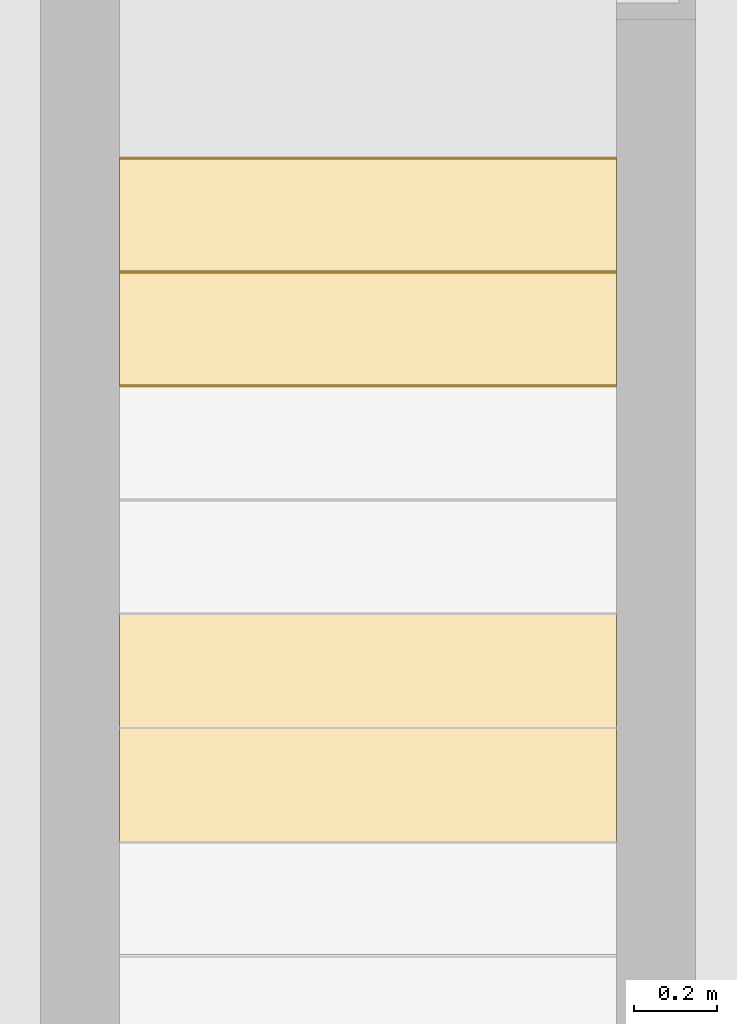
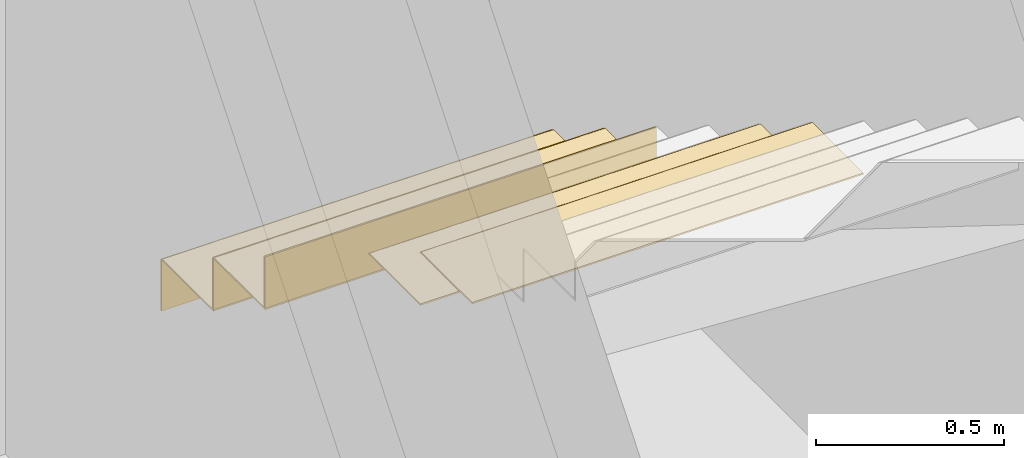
# One storey, part 61 of 62: 7 coverings, 1 element without a shape of its own.
"""IFC2X3 building model written with IfcOpenShell, lengths in millimetres."""

from ifc_helpers import new_model, entity, si_unit, converted_unit, derived_unit, money_unit, direction, frame, origin_with_axes, place, context, subcontext, project, spatial, faceted_brep, material, type_object, element, aggregate, save


model = new_model("IFC2X3")

# Units and contexts
model_context = context("Model", 3, precision=0.01, world=origin_with_axes(), true_north=direction((0.0, 1.0)))
body_context = subcontext(model_context, "Body", "Model", "MODEL_VIEW")
ifc_project = project(units=[si_unit("LENGTHUNIT", "METRE", prefix="MILLI"), si_unit("AREAUNIT", "SQUARE_METRE"), si_unit("VOLUMEUNIT", "CUBIC_METRE"), converted_unit("PLANEANGLEUNIT", "DEGREE", entity("IfcPlaneAngleMeasure", 0.0174532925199), si_unit("PLANEANGLEUNIT", "RADIAN"), dimensions=[0, 0, 0, 0, 0, 0, 0]), si_unit("SOLIDANGLEUNIT", "STERADIAN"), money_unit("EUR"), converted_unit("TIMEUNIT", "Year", entity("IfcTimeMeasure", 31556926.0), si_unit("TIMEUNIT", "SECOND"), dimensions=[0, 0, 1, 0, 0, 0, 0]), si_unit("MASSUNIT", "GRAM", prefix="KILO"), si_unit("THERMODYNAMICTEMPERATUREUNIT", "DEGREE_CELSIUS"), si_unit("LUMINOUSINTENSITYUNIT", "LUMEN"), si_unit("ENERGYUNIT", "JOULE", prefix="MEGA"), derived_unit("THERMALCONDUCTANCEUNIT", [(si_unit("POWERUNIT", "WATT"), 1), (si_unit("LENGTHUNIT", "METRE"), -1), (si_unit("THERMODYNAMICTEMPERATUREUNIT", "KELVIN"), -1)]), derived_unit("SPECIFICHEATCAPACITYUNIT", [(si_unit("ENERGYUNIT", "JOULE"), 1), (si_unit("MASSUNIT", "GRAM", prefix="KILO"), -1), (si_unit("THERMODYNAMICTEMPERATUREUNIT", "KELVIN"), -1)]), derived_unit("MASSDENSITYUNIT", [(si_unit("MASSUNIT", "GRAM", prefix="KILO"), 1), (si_unit("VOLUMEUNIT", "CUBIC_METRE"), -1)])], contexts=[model_context])

# Site, building, storey
site_placement = place(None, origin_with_axes())
site = spatial("IfcSite", under=ifc_project, at=site_placement, Name="KIRDE 14, ELVA", CompositionType="ELEMENT")
building_placement = place(site_placement, origin_with_axes())
building = spatial("IfcBuilding", under=site, at=building_placement, Name="PPA ja Päästeameti ühishoone", CompositionType="ELEMENT")
storey_placement = place(building_placement, origin_with_axes())
storey = spatial("IfcBuildingStorey", under=building, at=storey_placement, Name="Esimene korrus", CompositionType="ELEMENT", Elevation=0.0)

# Stair, coverings
stair_placement = place(storey_placement, frame((7700.00010085, 18999.9988138, 0.0), z_axis=(0.0, 0.0, 1.0), x_axis=(0.845542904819, 0.533907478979, 0.0)))
stair = element("IfcStair", 1, at=stair_placement, inside=storey, Name="TREPP", ShapeType="NOTDEFINED")
ifc_material = material(Name="SV-02_Puit - Põrand")
covering_type = type_object("IfcCoveringType", Name="IfcCovering", PredefinedType="FLOORING")
covering_1_placement = place(stair_placement, frame((507.32574555, -320.344483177, 166.428571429), z_axis=(0.0, 0.0, 1.0), x_axis=(-0.845542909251, 0.533907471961, 0.0)))
covering_1 = element("IfcCovering", 2, at=covering_1_placement, type_object=covering_type, material=ifc_material, Name="TV TÕUS - 001", PredefinedType="FLOORING", context=body_context, shape_type="Brep", body=[
    faceted_brep([(600.0, 0.0, 0.0), (600.0, 5.0, 0.0), (-600.0, 5.0, 0.0), (-600.0, 0.0, 0.0), (600.0, 0.0, -166.428571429), (600.0, 5.0, -166.428571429), (-600.0, 5.0, -166.428571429), (-600.0, 0.0, -166.428571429)], [[[0, 1, 2, 3]], [[0, 4, 5, 1]], [[1, 5, 6, 2]], [[3, 2, 6, 7]], [[4, 0, 3, 7]], [[5, 4, 7, 6]]]),
])
covering_2_placement = place(stair_placement, frame((360.501190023, -552.868784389, 337.857142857), z_axis=(0.0, 0.0, 1.0), x_axis=(-0.845542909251, 0.533907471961, 0.0)))
covering_2 = element("IfcCovering", 3, at=covering_2_placement, type_object=covering_type, material=ifc_material, Name="TV TÕUS - 002", PredefinedType="FLOORING", context=body_context, shape_type="Brep", body=[
    faceted_brep([(600.0, 0.0, 0.0), (600.0, 5.0, 0.0), (-600.0, 5.0, 0.0), (-600.0, 0.0, 0.0), (600.0, 0.0, -166.428571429), (600.0, 5.0, -166.428571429), (-600.0, 5.0, -166.428571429), (-600.0, 0.0, -166.428571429)], [[[0, 1, 2, 3]], [[0, 4, 5, 1]], [[1, 5, 6, 2]], [[3, 2, 6, 7]], [[4, 0, 3, 7]], [[5, 4, 7, 6]]]),
])
covering_3_placement = place(stair_placement, frame((213.676634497, -785.393085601, 509.285714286), z_axis=(0.0, 0.0, 1.0), x_axis=(-0.845542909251, 0.533907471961, 0.0)))
covering_3 = element("IfcCovering", 4, at=covering_3_placement, type_object=covering_type, material=ifc_material, Name="TV TÕUS - 003", PredefinedType="FLOORING", context=body_context, shape_type="Brep", body=[
    faceted_brep([(600.0, 0.0, 0.0), (600.0, 5.0, 0.0), (-600.0, 5.0, 0.0), (-600.0, 0.0, 0.0), (600.0, 0.0, -166.428571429), (600.0, 5.0, -166.428571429), (-600.0, 5.0, -166.428571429), (-600.0, 0.0, -166.428571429)], [[[0, 1, 2, 3]], [[0, 4, 5, 1]], [[1, 5, 6, 2]], [[3, 2, 6, 7]], [[4, 0, 3, 7]], [[5, 4, 7, 6]]]),
])
covering_4_placement = place(stair_placement, frame((507.32574555, -320.344483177, 171.428571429), z_axis=(0.0, 0.0, 1.0), x_axis=(-0.845542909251, 0.533907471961, 0.0)))
covering_4 = element("IfcCovering", 5, at=covering_4_placement, type_object=covering_type, material=ifc_material, Name="TV ASTE - 001", PredefinedType="FLOORING", context=body_context, shape_type="Brep", body=[
    faceted_brep([(-600.0, 280.000001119, 0.0), (600.0, 280.000006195, 0.0), (600.0, 280.000006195, -5.0), (-600.0, 280.000001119, -5.0), (-600.0, 12.5, 0.0), (600.0, 12.5, 0.0), (600.0, 2.92444446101, -4.46515487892), (600.0, 2.54994187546, -5.0), (600.0, 10.3293977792, -0.189903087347), (600.0, 8.22474820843, -0.753842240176), (600.0, 6.25, -1.67468245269), (600.0, 4.46515487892, -2.92444446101), (-600.0, 2.54994187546, -5.0), (-600.0, 2.92444446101, -4.46515487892), (-600.0, 4.46515487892, -2.92444446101), (-600.0, 6.25, -1.67468245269), (-600.0, 8.22474820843, -0.753842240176), (-600.0, 10.3293977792, -0.189903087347)], [[[0, 1, 2, 3]], [[1, 0, 4, 5]], [[6, 7, 2, 1, 5, 8, 9, 10, 11]], [[7, 12, 3, 2]], [[4, 0, 3, 12, 13, 14, 15, 16, 17]], [[8, 5, 4, 17]], [[7, 6, 13, 12]], [[9, 8, 17, 16]], [[10, 9, 16, 15]], [[11, 10, 15, 14]], [[6, 11, 14, 13]]]),
])
covering_5_placement = place(stair_placement, frame((360.501190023, -552.868784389, 342.857142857), z_axis=(0.0, 0.0, 1.0), x_axis=(-0.845542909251, 0.533907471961, 0.0)))
covering_5 = element("IfcCovering", 6, at=covering_5_placement, type_object=covering_type, material=ifc_material, Name="TV ASTE - 002", PredefinedType="FLOORING", context=body_context, shape_type="Brep", body=[
    faceted_brep([(-600.0, 280.000001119, 0.0), (600.0, 280.000006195, 0.0), (600.0, 280.000006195, -5.0), (-600.0, 280.000001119, -5.0), (-600.0, 12.5, 0.0), (600.0, 12.5, 0.0), (600.0, 2.92444446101, -4.46515487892), (600.0, 2.54994187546, -5.0), (600.0, 10.3293977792, -0.189903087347), (600.0, 8.22474820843, -0.753842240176), (600.0, 6.25, -1.67468245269), (600.0, 4.46515487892, -2.92444446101), (-600.0, 2.54994187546, -5.0), (-600.0, 2.92444446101, -4.46515487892), (-600.0, 4.46515487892, -2.92444446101), (-600.0, 6.25, -1.67468245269), (-600.0, 8.22474820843, -0.753842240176), (-600.0, 10.3293977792, -0.189903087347)], [[[0, 1, 2, 3]], [[1, 0, 4, 5]], [[6, 7, 2, 1, 5, 8, 9, 10, 11]], [[7, 12, 3, 2]], [[4, 0, 3, 12, 13, 14, 15, 16, 17]], [[8, 5, 4, 17]], [[7, 6, 13, 12]], [[9, 8, 17, 16]], [[10, 9, 16, 15]], [[11, 10, 15, 14]], [[6, 11, 14, 13]]]),
])
covering_6_placement = place(stair_placement, frame((-79.9724765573, -1250.44168802, 857.142857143), z_axis=(0.0, 0.0, 1.0), x_axis=(-0.845542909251, 0.533907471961, 0.0)))
covering_6 = element("IfcCovering", 7, at=covering_6_placement, type_object=covering_type, material=ifc_material, Name="TV ASTE - 005", PredefinedType="FLOORING", context=body_context, shape_type="Brep", body=[
    faceted_brep([(-600.0, 280.000001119, 0.0), (600.0, 280.000006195, 0.0), (600.0, 280.000006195, -5.0), (-600.0, 280.000001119, -5.0), (-600.0, 12.5, 0.0), (600.0, 12.5, 0.0), (600.0, 2.92444446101, -4.46515487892), (600.0, 2.54994187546, -5.0), (600.0, 10.3293977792, -0.189903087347), (600.0, 8.22474820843, -0.753842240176), (600.0, 6.25, -1.67468245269), (600.0, 4.46515487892, -2.92444446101), (-600.0, 2.54994187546, -5.0), (-600.0, 2.92444446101, -4.46515487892), (-600.0, 4.46515487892, -2.92444446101), (-600.0, 6.25, -1.67468245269), (-600.0, 8.22474820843, -0.753842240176), (-600.0, 10.3293977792, -0.189903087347)], [[[0, 1, 2, 3]], [[1, 0, 4, 5]], [[6, 7, 2, 1, 5, 8, 9, 10, 11]], [[7, 12, 3, 2]], [[4, 0, 3, 12, 13, 14, 15, 16, 17]], [[8, 5, 4, 17]], [[7, 6, 13, 12]], [[9, 8, 17, 16]], [[10, 9, 16, 15]], [[11, 10, 15, 14]], [[6, 11, 14, 13]]]),
])
covering_7_placement = place(stair_placement, frame((-226.797032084, -1482.96598924, 1028.57142857), z_axis=(0.0, 0.0, 1.0), x_axis=(-0.845542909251, 0.533907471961, 0.0)))
covering_7 = element("IfcCovering", 8, at=covering_7_placement, type_object=covering_type, material=ifc_material, Name="TV ASTE - 006", PredefinedType="FLOORING", context=body_context, shape_type="Brep", body=[
    faceted_brep([(-600.0, 280.000001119, 0.0), (600.0, 280.000006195, 0.0), (600.0, 280.000006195, -5.0), (-600.0, 280.000001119, -5.0), (-600.0, 12.5, 0.0), (600.0, 12.5, 0.0), (600.0, 2.92444446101, -4.46515487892), (600.0, 2.54994187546, -5.0), (600.0, 10.3293977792, -0.189903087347), (600.0, 8.22474820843, -0.753842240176), (600.0, 6.25, -1.67468245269), (600.0, 4.46515487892, -2.92444446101), (-600.0, 2.54994187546, -5.0), (-600.0, 2.92444446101, -4.46515487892), (-600.0, 4.46515487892, -2.92444446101), (-600.0, 6.25, -1.67468245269), (-600.0, 8.22474820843, -0.753842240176), (-600.0, 10.3293977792, -0.189903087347)], [[[0, 1, 2, 3]], [[1, 0, 4, 5]], [[6, 7, 2, 1, 5, 8, 9, 10, 11]], [[7, 12, 3, 2]], [[4, 0, 3, 12, 13, 14, 15, 16, 17]], [[8, 5, 4, 17]], [[7, 6, 13, 12]], [[9, 8, 17, 16]], [[10, 9, 16, 15]], [[11, 10, 15, 14]], [[6, 11, 14, 13]]]),
])
aggregate(stair, [covering_1, covering_2, covering_3, covering_4, covering_5, covering_6, covering_7])

save(model, "model.ifc")
